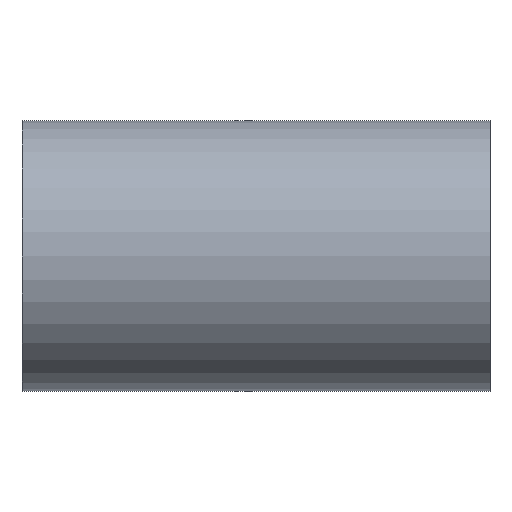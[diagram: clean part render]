
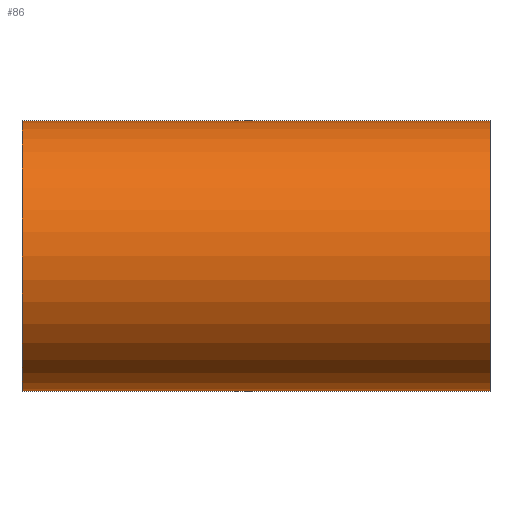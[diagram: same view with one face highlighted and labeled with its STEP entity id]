
A CAD part, front view. The second image highlights one B-rep face of the part: STEP entity #86.
In plain terms, the highlighted cylindrical face has radius 38.1 mm (diameter 76.2 mm), a partial arc.
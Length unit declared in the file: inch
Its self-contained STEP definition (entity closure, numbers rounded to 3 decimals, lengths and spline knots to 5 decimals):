
#31 = EDGE_CURVE ( 'NONE', #482, #528, #354, .T. ) ;
#41 = EDGE_CURVE ( 'NONE', #253, #505, #636, .T. ) ;
#52 = DIRECTION ( 'NONE',  ( 0., 0., 1. ) ) ;
#86 = ADVANCED_FACE ( 'NONE', ( #383 ), #215, .T. ) ;
#140 = CARTESIAN_POINT ( 'NONE',  ( -2.5935, 0., 0. ) ) ;
#143 = DIRECTION ( 'NONE',  ( 1., 0., 0. ) ) ;
#149 = CARTESIAN_POINT ( 'NONE',  ( -2.5935, 0., -1.5 ) ) ;
#173 = DIRECTION ( 'NONE',  ( -1., 0., 0. ) ) ;
#215 = CYLINDRICAL_SURFACE ( 'NONE', #574, 1.5 ) ;
#223 = DIRECTION ( 'NONE',  ( 0., 0., -1. ) ) ;
#224 = ORIENTED_EDGE ( 'NONE', *, *, #649, .F. ) ;
#226 = LINE ( 'NONE', #473, #631 ) ;
#253 = VERTEX_POINT ( 'NONE', #265 ) ;
#265 = CARTESIAN_POINT ( 'NONE',  ( -2.5935, 0., 1.5 ) ) ;
#284 = DIRECTION ( 'NONE',  ( 1., 0., 0. ) ) ;
#307 = CARTESIAN_POINT ( 'NONE',  ( 2.5935, 0., -1.5 ) ) ;
#341 = CARTESIAN_POINT ( 'NONE',  ( 2.5935, 0., 1.5 ) ) ;
#354 = CIRCLE ( 'NONE', #603, 1.5 ) ;
#367 = ORIENTED_EDGE ( 'NONE', *, *, #41, .T. ) ;
#380 = CARTESIAN_POINT ( 'NONE',  ( 2.5935, 0., 0. ) ) ;
#383 = FACE_OUTER_BOUND ( 'NONE', #665, .T. ) ;
#390 = ORIENTED_EDGE ( 'NONE', *, *, #31, .F. ) ;
#404 = CARTESIAN_POINT ( 'NONE',  ( 2.5935, 0., -1.5 ) ) ;
#441 = ORIENTED_EDGE ( 'NONE', *, *, #664, .T. ) ;
#473 = CARTESIAN_POINT ( 'NONE',  ( 2.5935, 0., 1.5 ) ) ;
#482 = VERTEX_POINT ( 'NONE', #341 ) ;
#505 = VERTEX_POINT ( 'NONE', #149 ) ;
#509 = VECTOR ( 'NONE', #617, 39.37008 ) ;
#528 = VERTEX_POINT ( 'NONE', #404 ) ;
#550 = DIRECTION ( 'NONE',  ( -1., 0., 0. ) ) ;
#574 = AXIS2_PLACEMENT_3D ( 'NONE', #380, #550, #52 ) ;
#589 = CARTESIAN_POINT ( 'NONE',  ( 2.5935, 0., 0. ) ) ;
#601 = AXIS2_PLACEMENT_3D ( 'NONE', #140, #143, #659 ) ;
#603 = AXIS2_PLACEMENT_3D ( 'NONE', #589, #284, #223 ) ;
#617 = DIRECTION ( 'NONE',  ( -1., 0., 0. ) ) ;
#631 = VECTOR ( 'NONE', #173, 39.37008 ) ;
#636 = CIRCLE ( 'NONE', #601, 1.5 ) ;
#649 = EDGE_CURVE ( 'NONE', #528, #505, #656, .T. ) ;
#656 = LINE ( 'NONE', #307, #509 ) ;
#659 = DIRECTION ( 'NONE',  ( 0., 0., -1. ) ) ;
#664 = EDGE_CURVE ( 'NONE', #482, #253, #226, .T. ) ;
#665 = EDGE_LOOP ( 'NONE', ( #224, #390, #441, #367 ) ) ;
